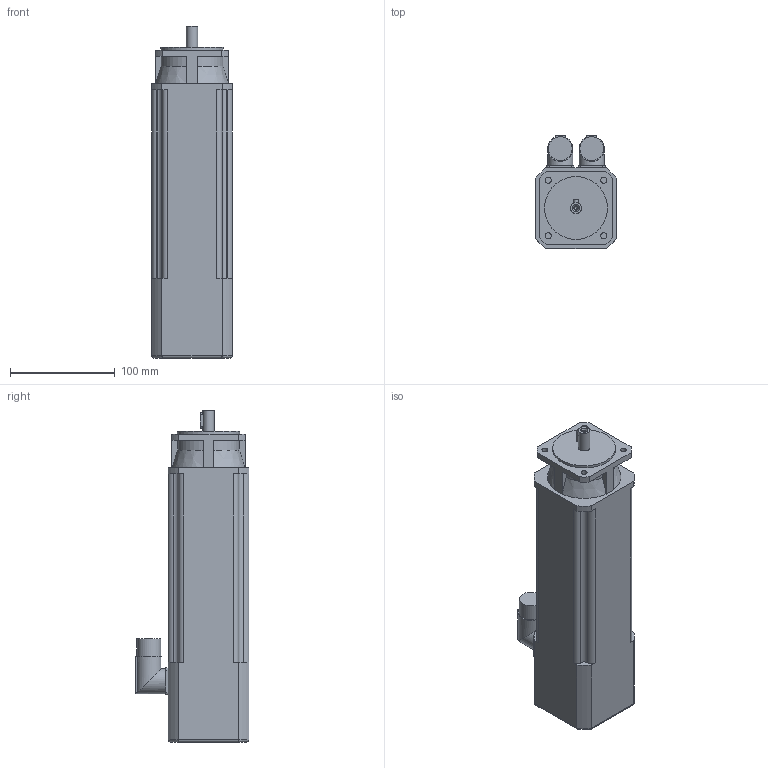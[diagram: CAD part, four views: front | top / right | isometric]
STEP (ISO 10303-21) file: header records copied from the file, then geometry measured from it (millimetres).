
FILE_DESCRIPTION(/* description */ (''),/* implementation_level */ '2;1');
FILE_NAME(/* name */ '\\Lafnas01\disegni\Archivi Lafert\3D\CAD 3D\MODELLI\Assiemi clienti\Serad\Modelli 3D Serad\B36I\Encoder\Enc With Brake\B36F5Ixx6BRx2033.ipt.stp',/* time_stamp */ '2015-09-07T10:48:57+02:00',/* author */ ('Pastrello Ylenia'),/* organization */ (''),/* preprocessor_version */ 'ST-DEVELOPER v15.6',/* originating_system */ 'Autodesk Inventor 2015',/* authorisation */ '');
FILE_SCHEMA (('AUTOMOTIVE_DESIGN { 1 0 10303 214 3 1 1 }'));
Length unit declared in the file: millimetre
Products named in the file (1): B36F5Ixx6BRx2033
Bounding box: 77 x 108.5 x 317 mm (x, y, z)
Volume: 1643213.9 mm3; surface area: 107306 mm2
Topology: 1 solids, 1 shells, 135 faces, 364 edges, 240 vertices
Faces by surface type: plane 64, cylinder 56, cone 11, torus 4
Full cylindrical faces by diameter (mm): 3.242 x1, 4.3 x1, 5.8 x4, 11 x1, 22.7 x2, 24 x2, 60 x1
Entity records: 4274 total; most frequent: CARTESIAN_POINT 876, DIRECTION 712, ORIENTED_EDGE 686, EDGE_CURVE 343, AXIS2_PLACEMENT_3D 255, VERTEX_POINT 235, LINE 202, VECTOR 202
